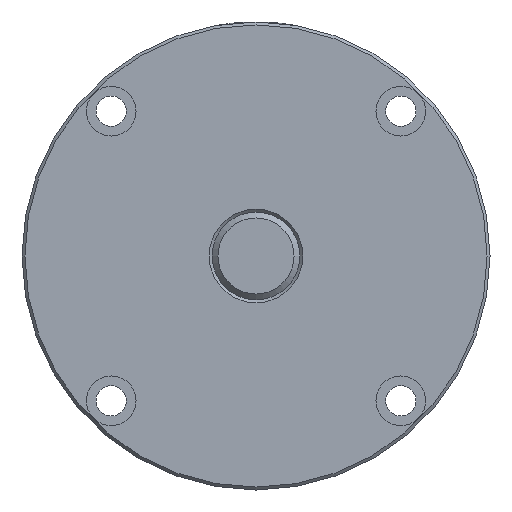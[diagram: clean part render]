
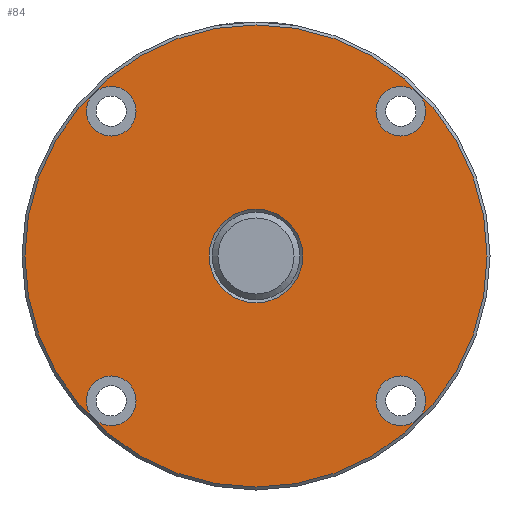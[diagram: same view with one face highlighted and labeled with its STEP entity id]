
A CAD part, left-side view. The second image highlights one B-rep face of the part: STEP entity #84.
In plain terms, the highlighted planar face has unit normal (-1, 0, 0).
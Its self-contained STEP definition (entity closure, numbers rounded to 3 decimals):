
#84 = ADVANCED_FACE( '', ( #137, #138, #139, #140, #141, #142 ), #143, .T. );
#137 = FACE_BOUND( '', #234, .T. );
#138 = FACE_BOUND( '', #235, .T. );
#139 = FACE_BOUND( '', #236, .T. );
#140 = FACE_BOUND( '', #237, .T. );
#141 = FACE_OUTER_BOUND( '', #238, .T. );
#142 = FACE_BOUND( '', #239, .T. );
#143 = PLANE( '', #240 );
#234 = EDGE_LOOP( '', ( #349 ) );
#235 = EDGE_LOOP( '', ( #350 ) );
#236 = EDGE_LOOP( '', ( #351 ) );
#237 = EDGE_LOOP( '', ( #352 ) );
#238 = EDGE_LOOP( '', ( #353 ) );
#239 = EDGE_LOOP( '', ( #354 ) );
#240 = AXIS2_PLACEMENT_3D( '', #355, #356, #357 );
#349 = ORIENTED_EDGE( '', *, *, #475, .T. );
#350 = ORIENTED_EDGE( '', *, *, #476, .T. );
#351 = ORIENTED_EDGE( '', *, *, #477, .T. );
#352 = ORIENTED_EDGE( '', *, *, #478, .T. );
#353 = ORIENTED_EDGE( '', *, *, #479, .T. );
#354 = ORIENTED_EDGE( '', *, *, #480, .F. );
#355 = CARTESIAN_POINT( '', ( 5., 0., 16. ) );
#356 = DIRECTION( '', ( -1., 0., 0. ) );
#357 = DIRECTION( '', ( 0., 0., 1. ) );
#475 = EDGE_CURVE( '', #525, #525, #526, .T. );
#476 = EDGE_CURVE( '', #527, #527, #528, .T. );
#477 = EDGE_CURVE( '', #529, #529, #530, .T. );
#478 = EDGE_CURVE( '', #531, #531, #532, .T. );
#479 = EDGE_CURVE( '', #533, #533, #534, .T. );
#480 = EDGE_CURVE( '', #535, #535, #536, .T. );
#525 = VERTEX_POINT( '', #683 );
#526 = CIRCLE( '', #684, 8.5 );
#527 = VERTEX_POINT( '', #685 );
#528 = CIRCLE( '', #686, 8.5 );
#529 = VERTEX_POINT( '', #687 );
#530 = CIRCLE( '', #688, 8.5 );
#531 = VERTEX_POINT( '', #689 );
#532 = CIRCLE( '', #690, 8.5 );
#533 = VERTEX_POINT( '', #691 );
#534 = CIRCLE( '', #692, 79. );
#535 = VERTEX_POINT( '', #693 );
#536 = CIRCLE( '', #694, 16. );
#683 = CARTESIAN_POINT( '', ( 5., -49.497, -40.997 ) );
#684 = AXIS2_PLACEMENT_3D( '', #763, #764, #765 );
#685 = CARTESIAN_POINT( '', ( 5., 49.497, -40.997 ) );
#686 = AXIS2_PLACEMENT_3D( '', #766, #767, #768 );
#687 = CARTESIAN_POINT( '', ( 5., 49.497, 57.997 ) );
#688 = AXIS2_PLACEMENT_3D( '', #769, #770, #771 );
#689 = CARTESIAN_POINT( '', ( 5., -49.497, 57.997 ) );
#690 = AXIS2_PLACEMENT_3D( '', #772, #773, #774 );
#691 = CARTESIAN_POINT( '', ( 5., 0., 79. ) );
#692 = AXIS2_PLACEMENT_3D( '', #775, #776, #777 );
#693 = CARTESIAN_POINT( '', ( 5., 0., 16. ) );
#694 = AXIS2_PLACEMENT_3D( '', #778, #779, #780 );
#763 = CARTESIAN_POINT( '', ( 5., -49.497, -49.497 ) );
#764 = DIRECTION( '', ( 1., 0., 0. ) );
#765 = DIRECTION( '', ( 0., 0., 1. ) );
#766 = CARTESIAN_POINT( '', ( 5., 49.497, -49.497 ) );
#767 = DIRECTION( '', ( 1., 0., 0. ) );
#768 = DIRECTION( '', ( 0., 0., 1. ) );
#769 = CARTESIAN_POINT( '', ( 5., 49.497, 49.497 ) );
#770 = DIRECTION( '', ( 1., 0., 0. ) );
#771 = DIRECTION( '', ( 0., 0., 1. ) );
#772 = CARTESIAN_POINT( '', ( 5., -49.497, 49.497 ) );
#773 = DIRECTION( '', ( 1., 0., 0. ) );
#774 = DIRECTION( '', ( 0., 0., 1. ) );
#775 = CARTESIAN_POINT( '', ( 5., 0., 0. ) );
#776 = DIRECTION( '', ( -1., 0., 0. ) );
#777 = DIRECTION( '', ( 0., 0., 1. ) );
#778 = CARTESIAN_POINT( '', ( 5., 0., 0. ) );
#779 = DIRECTION( '', ( -1., 0., 0. ) );
#780 = DIRECTION( '', ( 0., 0., 1. ) );
